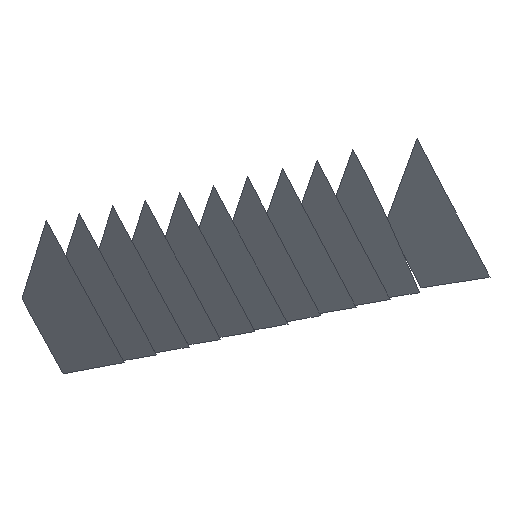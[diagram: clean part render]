
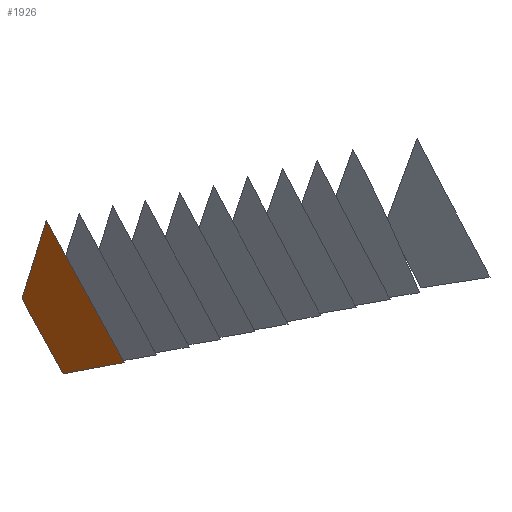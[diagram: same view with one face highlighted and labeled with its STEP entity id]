
A CAD part, front view. The second image highlights one B-rep face of the part: STEP entity #1926.
In plain terms, the highlighted free-form (B-spline) face has degree [1, 1] with [2, 2] control points.
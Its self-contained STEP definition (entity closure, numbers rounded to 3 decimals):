
#1926 = ADVANCED_FACE('',(#1927),#1940,.T.);
#1927 = FACE_BOUND('',#1928,.T.);
#1928 = EDGE_LOOP('',(#1929,#1950,#1964,#1978,#1992,#2006,#2020,#2034));
#1929 = ORIENTED_EDGE('',*,*,#1930,.T.);
#1930 = EDGE_CURVE('',#1931,#1933,#1935,.T.);
#1931 = VERTEX_POINT('',#1932);
#1932 = CARTESIAN_POINT('',(1466.947,-1682.53,
    1344.459));
#1933 = VERTEX_POINT('',#1934);
#1934 = CARTESIAN_POINT('',(1469.744,-1683.926,
    1339.367));
#1935 = SURFACE_CURVE('',#1936,(#1939),.PCURVE_S1.);
#1936 = B_SPLINE_CURVE_WITH_KNOTS('',1,(#1937,#1938),.UNSPECIFIED.,.F.,
  .F.,(2,2),(0.,5.974),.PIECEWISE_BEZIER_KNOTS.);
#1937 = CARTESIAN_POINT('',(1466.947,-1682.53,
    1344.459));
#1938 = CARTESIAN_POINT('',(1469.744,-1683.926,
    1339.367));
#1939 = PCURVE('',#1940,#1945);
#1940 = B_SPLINE_SURFACE_WITH_KNOTS('',1,1,(
    (#1941,#1942)
    ,(#1943,#1944
    )),.UNSPECIFIED.,.F.,.F.,.F.,(2,2),(2,2),(-3.792,
    5.344),(-3.394,3.472),
  .PIECEWISE_BEZIER_KNOTS.);
#1941 = CARTESIAN_POINT('',(1466.684,-1680.04,
    1335.032));
#1942 = CARTESIAN_POINT('',(1471.51,-1684.801,
    1336.126));
#1943 = CARTESIAN_POINT('',(1464.549,-1680.165,
    1343.915));
#1944 = CARTESIAN_POINT('',(1469.375,-1684.925,
    1345.009));
#1945 = DEFINITIONAL_REPRESENTATION('',(#1946),#1949);
#1946 = B_SPLINE_CURVE_WITH_KNOTS('',1,(#1947,#1948),.UNSPECIFIED.,.F.,
  .F.,(2,2),(0.,5.974),.PIECEWISE_BEZIER_KNOTS.);
#1947 = CARTESIAN_POINT('',(5.344,0.018));
#1948 = CARTESIAN_POINT('',(-0.24,2.14));
#1949 = ( GEOMETRIC_REPRESENTATION_CONTEXT(2) 
PARAMETRIC_REPRESENTATION_CONTEXT() REPRESENTATION_CONTEXT('2D SPACE',''
  ) );
#1950 = ORIENTED_EDGE('',*,*,#1951,.T.);
#1951 = EDGE_CURVE('',#1933,#1952,#1954,.T.);
#1952 = VERTEX_POINT('',#1953);
#1953 = CARTESIAN_POINT('',(1471.51,-1684.801,
    1336.126));
#1954 = SURFACE_CURVE('',#1955,(#1958),.PCURVE_S1.);
#1955 = B_SPLINE_CURVE_WITH_KNOTS('',1,(#1956,#1957),.UNSPECIFIED.,.F.,
  .F.,(2,2),(0.,3.794),.PIECEWISE_BEZIER_KNOTS.);
#1956 = CARTESIAN_POINT('',(1469.744,-1683.926,
    1339.367));
#1957 = CARTESIAN_POINT('',(1471.51,-1684.801,
    1336.126));
#1958 = PCURVE('',#1940,#1959);
#1959 = DEFINITIONAL_REPRESENTATION('',(#1960),#1963);
#1960 = B_SPLINE_CURVE_WITH_KNOTS('',1,(#1961,#1962),.UNSPECIFIED.,.F.,
  .F.,(2,2),(0.,3.794),.PIECEWISE_BEZIER_KNOTS.);
#1961 = CARTESIAN_POINT('',(-0.24,2.14));
#1962 = CARTESIAN_POINT('',(-3.792,3.472));
#1963 = ( GEOMETRIC_REPRESENTATION_CONTEXT(2) 
PARAMETRIC_REPRESENTATION_CONTEXT() REPRESENTATION_CONTEXT('2D SPACE',''
  ) );
#1964 = ORIENTED_EDGE('',*,*,#1965,.T.);
#1965 = EDGE_CURVE('',#1952,#1966,#1968,.T.);
#1966 = VERTEX_POINT('',#1967);
#1967 = CARTESIAN_POINT('',(1470.351,-1683.67,
    1335.918));
#1968 = SURFACE_CURVE('',#1969,(#1972),.PCURVE_S1.);
#1969 = B_SPLINE_CURVE_WITH_KNOTS('',1,(#1970,#1971),.UNSPECIFIED.,.F.,
  .F.,(2,2),(0.,1.632),.PIECEWISE_BEZIER_KNOTS.);
#1970 = CARTESIAN_POINT('',(1471.51,-1684.801,
    1336.126));
#1971 = CARTESIAN_POINT('',(1470.351,-1683.67,
    1335.918));
#1972 = PCURVE('',#1940,#1973);
#1973 = DEFINITIONAL_REPRESENTATION('',(#1974),#1977);
#1974 = B_SPLINE_CURVE_WITH_KNOTS('',1,(#1975,#1976),.UNSPECIFIED.,.F.,
  .F.,(2,2),(0.,1.632),.PIECEWISE_BEZIER_KNOTS.);
#1975 = CARTESIAN_POINT('',(-3.792,3.472));
#1976 = CARTESIAN_POINT('',(-3.739,1.84));
#1977 = ( GEOMETRIC_REPRESENTATION_CONTEXT(2) 
PARAMETRIC_REPRESENTATION_CONTEXT() REPRESENTATION_CONTEXT('2D SPACE',''
  ) );
#1978 = ORIENTED_EDGE('',*,*,#1979,.T.);
#1979 = EDGE_CURVE('',#1966,#1980,#1982,.T.);
#1980 = VERTEX_POINT('',#1981);
#1981 = CARTESIAN_POINT('',(1468.928,-1682.28,
    1335.652));
#1982 = SURFACE_CURVE('',#1983,(#1986),.PCURVE_S1.);
#1983 = B_SPLINE_CURVE_WITH_KNOTS('',1,(#1984,#1985),.UNSPECIFIED.,.F.,
  .F.,(2,2),(0.,2.007),.PIECEWISE_BEZIER_KNOTS.);
#1984 = CARTESIAN_POINT('',(1470.351,-1683.67,
    1335.918));
#1985 = CARTESIAN_POINT('',(1468.928,-1682.28,
    1335.652));
#1986 = PCURVE('',#1940,#1987);
#1987 = DEFINITIONAL_REPRESENTATION('',(#1988),#1991);
#1988 = B_SPLINE_CURVE_WITH_KNOTS('',1,(#1989,#1990),.UNSPECIFIED.,.F.,
  .F.,(2,2),(0.,2.007),.PIECEWISE_BEZIER_KNOTS.);
#1989 = CARTESIAN_POINT('',(-3.739,1.84));
#1990 = CARTESIAN_POINT('',(-3.684,-0.166));
#1991 = ( GEOMETRIC_REPRESENTATION_CONTEXT(2) 
PARAMETRIC_REPRESENTATION_CONTEXT() REPRESENTATION_CONTEXT('2D SPACE',''
  ) );
#1992 = ORIENTED_EDGE('',*,*,#1993,.T.);
#1993 = EDGE_CURVE('',#1980,#1994,#1996,.T.);
#1994 = VERTEX_POINT('',#1995);
#1995 = CARTESIAN_POINT('',(1467.928,-1681.303,
    1335.462));
#1996 = SURFACE_CURVE('',#1997,(#2000),.PCURVE_S1.);
#1997 = B_SPLINE_CURVE_WITH_KNOTS('',1,(#1998,#1999),.UNSPECIFIED.,.F.,
  .F.,(2,2),(0.,1.411),.PIECEWISE_BEZIER_KNOTS.);
#1998 = CARTESIAN_POINT('',(1468.928,-1682.28,
    1335.652));
#1999 = CARTESIAN_POINT('',(1467.928,-1681.303,
    1335.462));
#2000 = PCURVE('',#1940,#2001);
#2001 = DEFINITIONAL_REPRESENTATION('',(#2002),#2005);
#2002 = B_SPLINE_CURVE_WITH_KNOTS('',1,(#2003,#2004),.UNSPECIFIED.,.F.,
  .F.,(2,2),(0.,1.411),.PIECEWISE_BEZIER_KNOTS.);
#2003 = CARTESIAN_POINT('',(-3.684,-0.166));
#2004 = CARTESIAN_POINT('',(-3.648,-1.576));
#2005 = ( GEOMETRIC_REPRESENTATION_CONTEXT(2) 
PARAMETRIC_REPRESENTATION_CONTEXT() REPRESENTATION_CONTEXT('2D SPACE',''
  ) );
#2006 = ORIENTED_EDGE('',*,*,#2007,.T.);
#2007 = EDGE_CURVE('',#1994,#2008,#2010,.T.);
#2008 = VERTEX_POINT('',#2009);
#2009 = CARTESIAN_POINT('',(1467.055,-1680.87,
    1337.065));
#2010 = SURFACE_CURVE('',#2011,(#2014),.PCURVE_S1.);
#2011 = B_SPLINE_CURVE_WITH_KNOTS('',1,(#2012,#2013),.UNSPECIFIED.,.F.,
  .F.,(2,2),(0.,1.876),.PIECEWISE_BEZIER_KNOTS.);
#2012 = CARTESIAN_POINT('',(1467.928,-1681.303,
    1335.462));
#2013 = CARTESIAN_POINT('',(1467.055,-1680.87,
    1337.065));
#2014 = PCURVE('',#1940,#2015);
#2015 = DEFINITIONAL_REPRESENTATION('',(#2016),#2019);
#2016 = B_SPLINE_CURVE_WITH_KNOTS('',1,(#2017,#2018),.UNSPECIFIED.,.F.,
  .F.,(2,2),(0.,1.876),.PIECEWISE_BEZIER_KNOTS.);
#2017 = CARTESIAN_POINT('',(-3.648,-1.576));
#2018 = CARTESIAN_POINT('',(-1.891,-2.235));
#2019 = ( GEOMETRIC_REPRESENTATION_CONTEXT(2) 
PARAMETRIC_REPRESENTATION_CONTEXT() REPRESENTATION_CONTEXT('2D SPACE',''
  ) );
#2020 = ORIENTED_EDGE('',*,*,#2021,.T.);
#2021 = EDGE_CURVE('',#2008,#2022,#2024,.T.);
#2022 = VERTEX_POINT('',#2023);
#2023 = CARTESIAN_POINT('',(1465.527,-1680.108,
    1339.847));
#2024 = SURFACE_CURVE('',#2025,(#2028),.PCURVE_S1.);
#2025 = B_SPLINE_CURVE_WITH_KNOTS('',1,(#2026,#2027),.UNSPECIFIED.,.F.,
  .F.,(2,2),(0.,3.264),.PIECEWISE_BEZIER_KNOTS.);
#2026 = CARTESIAN_POINT('',(1467.055,-1680.87,
    1337.065));
#2027 = CARTESIAN_POINT('',(1465.527,-1680.108,
    1339.847));
#2028 = PCURVE('',#1940,#2029);
#2029 = DEFINITIONAL_REPRESENTATION('',(#2030),#2033);
#2030 = B_SPLINE_CURVE_WITH_KNOTS('',1,(#2031,#2032),.UNSPECIFIED.,.F.,
  .F.,(2,2),(0.,3.264),.PIECEWISE_BEZIER_KNOTS.);
#2031 = CARTESIAN_POINT('',(-1.891,-2.235));
#2032 = CARTESIAN_POINT('',(1.159,-3.394));
#2033 = ( GEOMETRIC_REPRESENTATION_CONTEXT(2) 
PARAMETRIC_REPRESENTATION_CONTEXT() REPRESENTATION_CONTEXT('2D SPACE',''
  ) );
#2034 = ORIENTED_EDGE('',*,*,#2035,.T.);
#2035 = EDGE_CURVE('',#2022,#1931,#2036,.T.);
#2036 = SURFACE_CURVE('',#2037,(#2040),.PCURVE_S1.);
#2037 = B_SPLINE_CURVE_WITH_KNOTS('',1,(#2038,#2039),.UNSPECIFIED.,.F.,
  .F.,(2,2),(0.,5.4),.PIECEWISE_BEZIER_KNOTS.);
#2038 = CARTESIAN_POINT('',(1465.527,-1680.108,
    1339.847));
#2039 = CARTESIAN_POINT('',(1466.947,-1682.53,
    1344.459));
#2040 = PCURVE('',#1940,#2041);
#2041 = DEFINITIONAL_REPRESENTATION('',(#2042),#2045);
#2042 = B_SPLINE_CURVE_WITH_KNOTS('',1,(#2043,#2044),.UNSPECIFIED.,.F.,
  .F.,(2,2),(0.,5.4),.PIECEWISE_BEZIER_KNOTS.);
#2043 = CARTESIAN_POINT('',(1.159,-3.394));
#2044 = CARTESIAN_POINT('',(5.344,0.018));
#2045 = ( GEOMETRIC_REPRESENTATION_CONTEXT(2) 
PARAMETRIC_REPRESENTATION_CONTEXT() REPRESENTATION_CONTEXT('2D SPACE',''
  ) );
